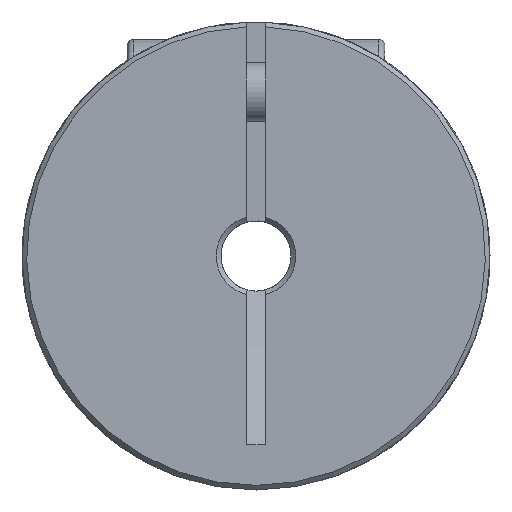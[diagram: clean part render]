
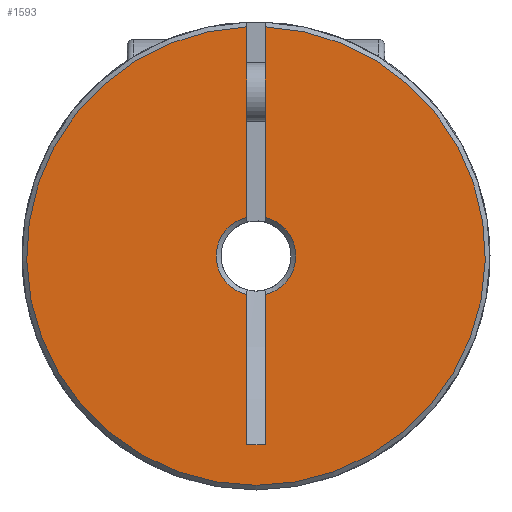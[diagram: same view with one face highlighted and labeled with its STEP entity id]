
A CAD part, left-side view. The second image highlights one B-rep face of the part: STEP entity #1593.
In plain terms, the highlighted planar face has unit normal (-1, 0, 0).
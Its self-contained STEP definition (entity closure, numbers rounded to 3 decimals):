
#110=LINE('',#2571,#188);
#111=LINE('',#2579,#189);
#114=LINE('',#2595,#192);
#117=LINE('',#2606,#195);
#119=LINE('',#2622,#197);
#188=VECTOR('',#1985,1000.);
#189=VECTOR('',#1988,1000.);
#192=VECTOR('',#1997,1000.);
#195=VECTOR('',#2002,1000.);
#197=VECTOR('',#2008,1000.);
#333=ORIENTED_EDGE('',*,*,#727,.T.);
#334=ORIENTED_EDGE('',*,*,#698,.F.);
#335=ORIENTED_EDGE('',*,*,#703,.F.);
#336=ORIENTED_EDGE('',*,*,#688,.T.);
#337=ORIENTED_EDGE('',*,*,#728,.T.);
#338=ORIENTED_EDGE('',*,*,#686,.T.);
#339=ORIENTED_EDGE('',*,*,#729,.F.);
#340=ORIENTED_EDGE('',*,*,#694,.F.);
#686=EDGE_CURVE('',#882,#886,#110,.T.);
#688=EDGE_CURVE('',#889,#887,#111,.T.);
#694=EDGE_CURVE('',#894,#895,#114,.T.);
#698=EDGE_CURVE('',#898,#899,#117,.T.);
#703=EDGE_CURVE('',#889,#898,#119,.T.);
#727=EDGE_CURVE('',#894,#899,#1031,.T.);
#728=EDGE_CURVE('',#887,#882,#1032,.T.);
#729=EDGE_CURVE('',#895,#886,#1033,.T.);
#882=VERTEX_POINT('',#2559);
#886=VERTEX_POINT('',#2570);
#887=VERTEX_POINT('',#2577);
#889=VERTEX_POINT('',#2580);
#894=VERTEX_POINT('',#2594);
#895=VERTEX_POINT('',#2596);
#898=VERTEX_POINT('',#2607);
#899=VERTEX_POINT('',#2608);
#1031=CIRCLE('',#1748,1.7);
#1032=CIRCLE('',#1749,1.7);
#1033=CIRCLE('',#1750,9.8);
#1142=EDGE_LOOP('',(#333,#334,#335,#336,#337,#338,#339,#340));
#1338=FACE_BOUND('',#1142,.T.);
#1519=PLANE('',#1747);
#1593=ADVANCED_FACE('',(#1338),#1519,.F.);
#1747=AXIS2_PLACEMENT_3D('',#2743,#2047,#2048);
#1748=AXIS2_PLACEMENT_3D('',#2744,#2049,#2050);
#1749=AXIS2_PLACEMENT_3D('',#2745,#2051,#2052);
#1750=AXIS2_PLACEMENT_3D('',#2746,#2053,#2054);
#1985=DIRECTION('',(0.,0.,1.));
#1988=DIRECTION('',(0.,0.,1.));
#1997=DIRECTION('',(0.,0.,1.));
#2002=DIRECTION('',(0.,0.,1.));
#2008=DIRECTION('',(0.,-1.,0.));
#2047=DIRECTION('',(1.,0.,0.));
#2048=DIRECTION('',(0.,0.,-1.));
#2049=DIRECTION('',(1.,0.,0.));
#2050=DIRECTION('',(0.,0.,-1.));
#2051=DIRECTION('',(1.,0.,0.));
#2052=DIRECTION('',(0.,0.,-1.));
#2053=DIRECTION('',(1.,0.,0.));
#2054=DIRECTION('',(0.,0.,-1.));
#2559=CARTESIAN_POINT('',(0.,0.4,1.652));
#2570=CARTESIAN_POINT('',(0.,0.4,9.792));
#2571=CARTESIAN_POINT('',(0.,0.4,-8.073));
#2577=CARTESIAN_POINT('',(0.,0.4,-1.652));
#2579=CARTESIAN_POINT('',(0.,0.4,-8.073));
#2580=CARTESIAN_POINT('',(0.,0.4,-8.073));
#2594=CARTESIAN_POINT('',(0.,-0.4,1.652));
#2595=CARTESIAN_POINT('',(0.,-0.4,-8.073));
#2596=CARTESIAN_POINT('',(0.,-0.4,9.792));
#2606=CARTESIAN_POINT('',(0.,-0.4,-8.073));
#2607=CARTESIAN_POINT('',(0.,-0.4,-8.073));
#2608=CARTESIAN_POINT('',(0.,-0.4,-1.652));
#2622=CARTESIAN_POINT('',(0.,0.4,-8.073));
#2743=CARTESIAN_POINT('',(0.,0.,0.));
#2744=CARTESIAN_POINT('',(0.,0.,0.));
#2745=CARTESIAN_POINT('',(0.,0.,0.));
#2746=CARTESIAN_POINT('',(0.,0.,0.));
